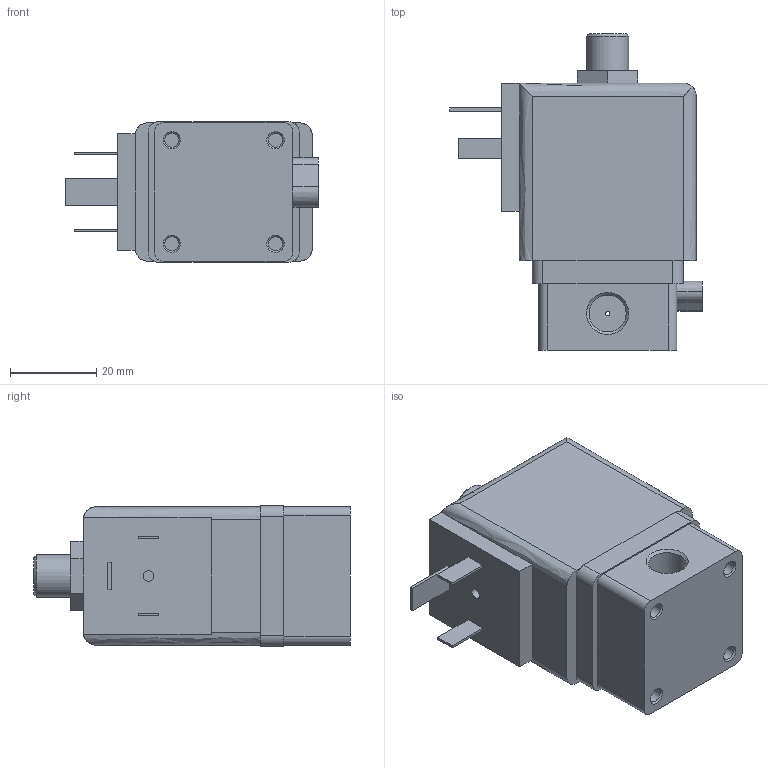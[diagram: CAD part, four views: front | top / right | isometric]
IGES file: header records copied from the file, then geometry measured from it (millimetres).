
Start section: Data from Parasolid IGES Translator 26.0.171, Copyright(c) 2006 Siemens PLM Software. All Rights Reserved.
Global section: file name: 6014-126146-3_2-way_Solenoid_Valve_direct-acting.igs; native system: By Siemens PLM Incorporated; preprocessor: XPlus GENERIC/IGES 26.0.171; author: Noname; organization: Noname; date: 20240812.140720; units: millimetre
Bounding box: 58.45 x 73.3 x 32.6 mm (x, y, z)
Surface area: 13172.6 mm2 (no closed solid volume)
Topology: 0 solids, 0 shells, 92 faces, 448 edges, 425 vertices
Faces by surface type: extrusion 58, revolution 34
